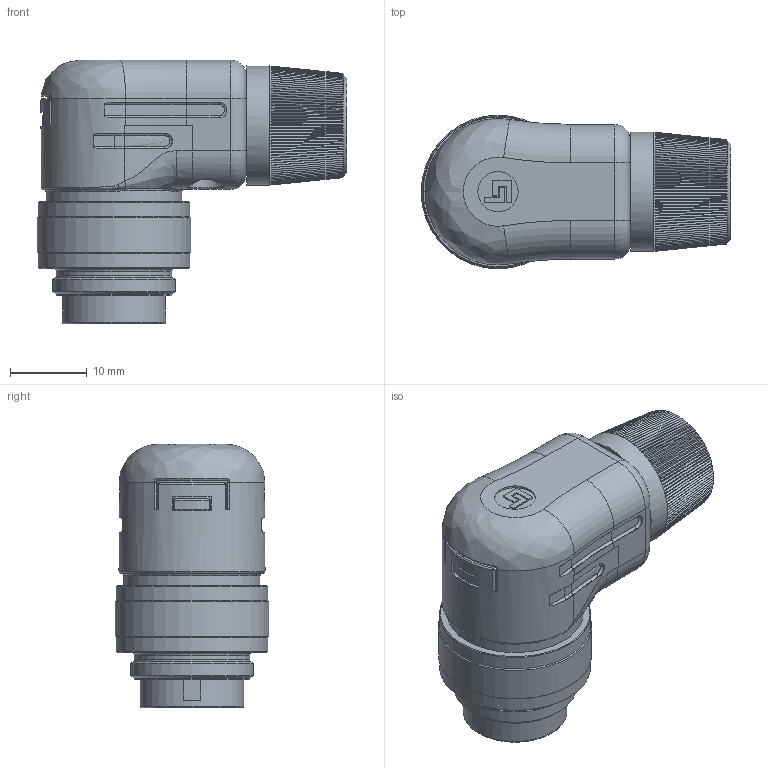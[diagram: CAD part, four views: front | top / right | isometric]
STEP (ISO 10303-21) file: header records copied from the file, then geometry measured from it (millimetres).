
FILE_DESCRIPTION(/* description */ (''),/* implementation_level */ '2;1');
FILE_NAME(/* name */ '99-0139-10-05_001-Winkelstecker.stp',/* time_stamp */ '2017-12-13T09:55:07+01:00',/* author */ (''),/* organization */ (''),/* preprocessor_version */ 'ST-DEVELOPER v16',/* originating_system */ 'SIEMENS PLM Software NX 11.0',/* authorisation */ '');
FILE_SCHEMA (('AUTOMOTIVE_DESIGN { 1 0 10303 214 3 1 1 1 }'));
Length unit declared in the file: millimetre
Products named in the file (1): mfur19902429w071
Bounding box: 40.3 x 20 x 34.3 mm (x, y, z)
Volume: 12415.4 mm3; surface area: 4693.4 mm2
Topology: 1 solids, 3 shells, 762 faces, 1877 edges, 1136 vertices
Faces by surface type: plane 450, cone 140, cylinder 81, bspline 51, torus 36, sphere 4
Full cylindrical faces by diameter (mm): 1.49 x5, 4.4 x2, 5.248 x1, 6 x1, 13.5 x1, 15 x2, 15.5 x1, 16 x1, 17.7 x1, 19.7 x2, 20 x1
Entity records: 24745 total; most frequent: CARTESIAN_POINT 8260, ORIENTED_EDGE 3594, DIRECTION 3108, EDGE_CURVE 1797, AXIS2_PLACEMENT_3D 1211, VERTEX_POINT 1116, EDGE_LOOP 837, ADVANCED_FACE 762
